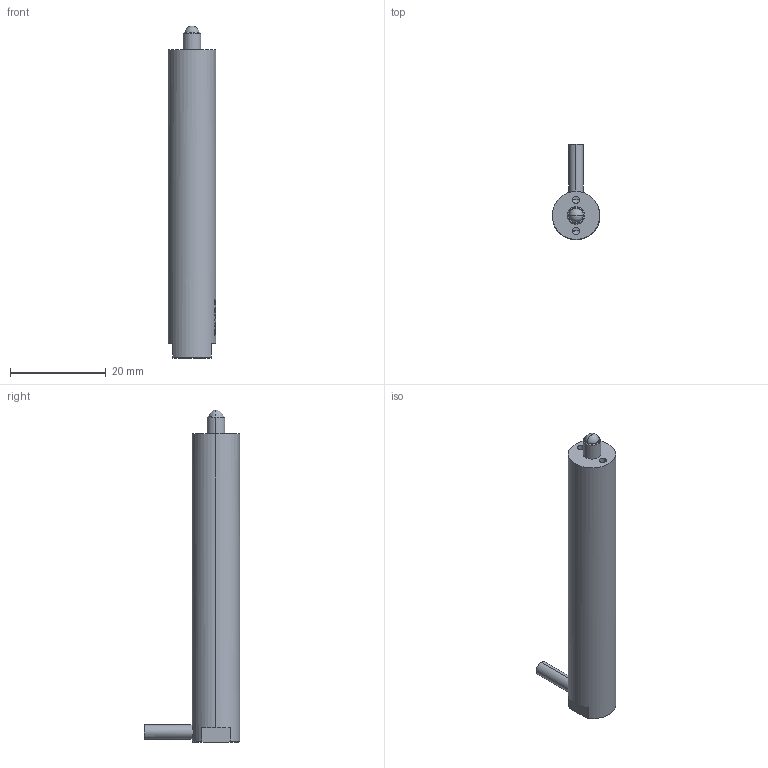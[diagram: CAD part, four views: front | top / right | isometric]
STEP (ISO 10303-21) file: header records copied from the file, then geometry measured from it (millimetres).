
FILE_DESCRIPTION (( 'STEP AP203' ), '1' );
FILE_NAME ('60VS10球头.STEP', '2024-12-10T06:29:21', ( 'daohangxitong.com' ), ( 'daohangxitong.com' ), 'SwSTEP 2.0', 'SolidWorks 2016', '' );
FILE_SCHEMA (( 'CONFIG_CONTROL_DESIGN' ));
Length unit declared in the file: millimetre
Products named in the file (1): 60VS10球头
Bounding box: 10 x 20 x 69.5 mm (x, y, z)
Volume: 5125.6 mm3; surface area: 2389.1 mm2
Topology: 1 solids, 1 shells, 728 faces, 2074 edges, 1375 vertices
Faces by surface type: bspline 628, cylinder 48, plane 38, cone 12, sphere 2
Entity records: 41437 total; most frequent: CARTESIAN_POINT 28065, ORIENTED_EDGE 4136, EDGE_CURVE 2068, B_SPLINE_CURVE_WITH_KNOTS 1930, VERTEX_POINT 1375, EDGE_LOOP 761, ADVANCED_FACE 728, FACE_OUTER_BOUND 728
